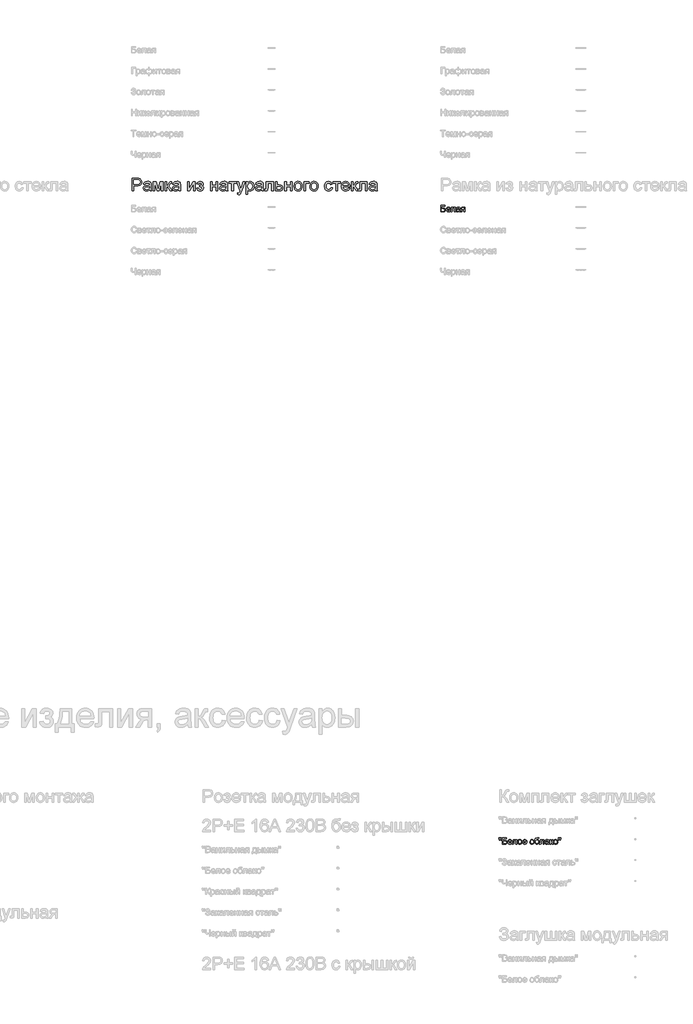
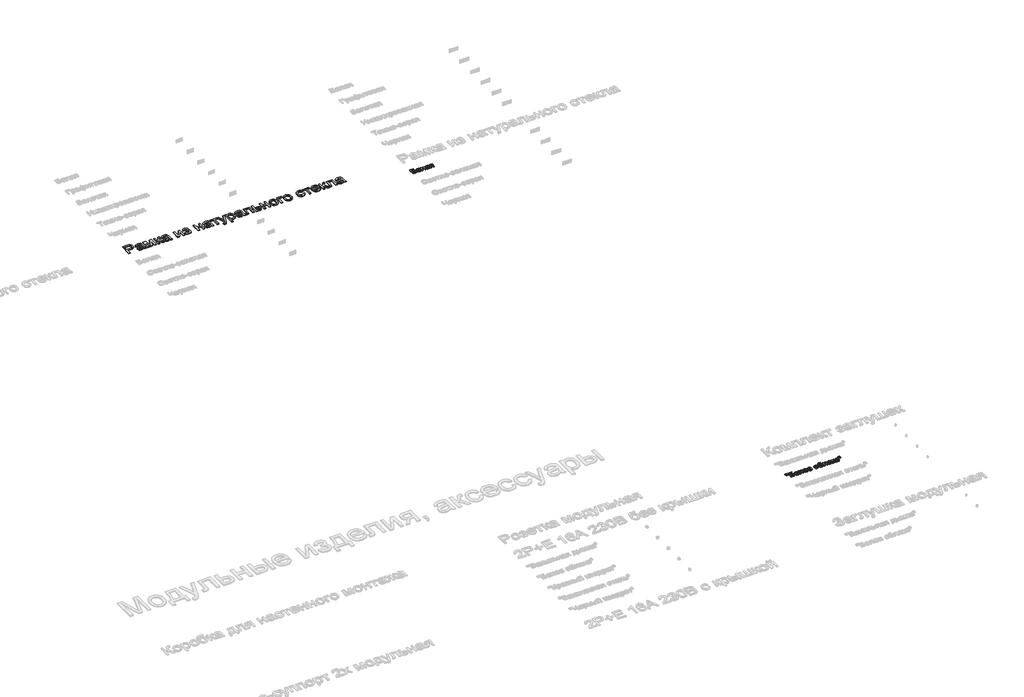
# One storey, part 104 of 168: 3 proxies.
"""IFC4 building model written with IfcOpenShell, lengths in millimetres."""

from ifc_helpers import new_model, si_unit, origin, origin_with_axes, place, context, project, spatial, polyline, outline, extrude, element, save

model = new_model("IFC4")

# Units and contexts
model_context = context("Model", 3, world=origin())
ifc_project = project(units=[si_unit("LENGTHUNIT", "METRE", prefix="MILLI")], contexts=[model_context])

# Site, building, storey
site = spatial("IfcSite", under=ifc_project)
building = spatial("IfcBuilding", under=site)
storey = spatial("IfcBuildingStorey", under=building, Name="Этаж 01", Elevation=0.0)

# Proxies
placement = place(None, origin())
element("IfcBuildingElementProxy", 1, Name="300 мм Arial 2", ObjectType="300 мм Arial 2", at=placement, inside=storey, context=model_context, shape_type="SweptSolid", body=[
    extrude(outline(polyline([(40299.0945017, -16348.4056816), (40299.0945017, -16047.0367511), (40410.7834754, -16047.0367511), (40455.8122316, -16049.9062307), (40475.8893915, -16055.2681108), (40492.4164901, -16063.9961111), (40505.7246213, -16076.4857048), (40516.1448788, -16093.1323651), (40522.8771193, -16112.7680666), (40525.1211995, -16134.224784), (40523.6059855, -16152.7246498), (40519.0603436, -16169.7437906), (40511.4842738, -16185.2822064), (40500.877776, -16199.3398971), (40486.3165468, -16210.9925593), (40466.8762826, -16219.3158895), (40442.5569835, -16224.3098875), (40413.3586494, -16225.9745536), (40336.765618, -16225.9745536), (40336.765618, -16348.4056816), (40299.0945017, -16348.4056816)]), holes=[polyline([(40336.765618, -16188.3034373), (40415.5659413, -16188.3034373), (40448.9696265, -16184.8453465), (40471.0425462, -16174.4710742), (40483.3481989, -16157.824414), (40487.4500832, -16135.5491592), (40485.0312591, -16118.6265874), (40477.7747867, -16104.352766), (40466.581977, -16093.6106117), (40452.3541408, -16087.2830414), (40414.6830245, -16084.7078674), (40336.765618, -16084.7078674), (40336.765618, -16188.3034373)])]), origin_with_axes(), (0.0, 0.0, 1.0), 20.0),
    extrude(outline(polyline([(40713.476781, -16320.1523443), (40695.4781544, -16335.584994), (40676.9460989, -16345.6833548), (40657.4575502, -16351.256767), (40636.589444, -16353.1145711), (40605.1079423, -16348.6448049), (40581.8853914, -16335.2355061), (40567.5655847, -16314.8732377), (40562.7923158, -16289.5445623), (40564.5949376, -16273.9279716), (40570.0028029, -16259.7461207), (40578.3445271, -16247.6060149), (40588.9487257, -16238.1146594), (40615.3258647, -16225.7538244), (40647.9202095, -16220.0884417), (40686.4374544, -16214.1287533), (40713.2560518, -16207.1389954), (40713.476781, -16198.7512859), (40710.883213, -16181.9390788), (40703.1025088, -16170.9394071), (40685.7016904, -16162.7724268), (40661.4582669, -16160.0501), (40639.0174652, -16161.8619189), (40623.3456922, -16167.2973753), (40612.6587202, -16177.3497509), (40605.1723216, -16193.0123268), (40567.5012053, -16188.3034373), (40574.0403078, -16167.7020455), (40583.7983777, -16151.5152378), (40597.685923, -16139.1360086), (40616.6134517, -16129.9573528), (40639.7624262, -16124.273576), (40666.3143092, -16122.3789837), (40691.7809404, -16124.0528468), (40711.9684648, -16129.074436), (40727.1895824, -16136.625214), (40737.7569927, -16145.8866432), (40744.7651447, -16157.3369703), (40749.3084874, -16171.4544419), (40751.1478973, -16204.4166687), (40751.1478973, -16251.2848348), (40753.0608837, -16316.7310418), (40760.5656764, -16348.4056816), (40722.8945601, -16348.4056816), (40713.476781, -16320.1523443)]), holes=[polyline([(40713.476781, -16244.8101117), (40652.7026754, -16256.3616064), (40620.2922716, -16262.4684475), (40605.61378, -16272.4012614), (40600.4634321, -16286.895812), (40603.2685323, -16298.0978187), (40611.683833, -16307.2764745), (40625.525393, -16313.4017097), (40644.6092715, -16315.4434548), (40664.8427813, -16313.1901776), (40682.7218462, -16306.4303459), (40697.2163968, -16296.4699409), (40707.2963635, -16284.6149436), (40711.7661297, -16272.4012614), (40713.2560518, -16255.4786896), (40713.476781, -16244.8101117)])]), origin_with_axes(), (0.0, 0.0, 1.0), 20.0),
    extrude(outline(polyline([(40802.9456823, -16127.0878733), (40867.7664898, -16127.0878733), (40917.7248647, -16304.2598421), (40971.5827888, -16127.0878733), (41033.6812696, -16127.0878733), (41033.6812696, -16348.4056816), (40996.0101533, -16348.4056816), (40996.0101533, -16170.2036431), (40941.8579236, -16348.4056816), (40892.4145835, -16348.4056816), (40840.6167986, -16161.6687808), (40840.6167986, -16348.4056816), (40802.9456823, -16348.4056816), (40802.9456823, -16127.0878733)])), origin_with_axes(), (0.0, 0.0, 1.0), 20.0),
    extrude(outline(polyline([(41090.1879441, -16127.0878733), (41127.8590604, -16127.0878733), (41127.8590604, -16221.265664), (41143.1813455, -16219.5734069), (41153.0957653, -16214.4966353), (41161.8697508, -16201.2528835), (41173.7707334, -16175.0596854), (41190.9508226, -16141.0306009), (41206.1075608, -16129.9573528), (41233.6619222, -16127.0878733), (41240.8724093, -16127.0878733), (41240.8724093, -16164.9797188), (41230.7188662, -16164.7589896), (41212.3247665, -16168.7321151), (41199.3753203, -16193.5273616), (41184.1817939, -16220.345959), (41162.8814263, -16233.4793463), (41174.8191971, -16238.7814455), (41186.6466032, -16248.1394438), (41209.9703217, -16279.0231373), (41250.2901884, -16348.4056816), (41207.4687241, -16348.4056816), (41167.9581979, -16280.4946653), (41148.0925701, -16251.7630814), (41138.8035497, -16246.5483542), (41127.8590604, -16244.8101117), (41127.8590604, -16348.4056816), (41090.1879441, -16348.4056816), (41090.1879441, -16127.0878733)])), origin_with_axes(), (0.0, 0.0, 1.0), 20.0),
    extrude(outline(polyline([(41415.1013222, -16320.1523443), (41397.1026956, -16335.584994), (41378.5706401, -16345.6833548), (41359.0820914, -16351.256767), (41338.2139852, -16353.1145711), (41306.7324835, -16348.6448049), (41283.5099326, -16335.2355061), (41269.1901259, -16314.8732377), (41264.416857, -16289.5445623), (41266.2194788, -16273.9279716), (41271.6273441, -16259.7461207), (41279.9690683, -16247.6060149), (41290.5732669, -16238.1146594), (41316.9504059, -16225.7538244), (41349.5447507, -16220.0884417), (41388.0619956, -16214.1287533), (41414.880593, -16207.1389954), (41415.1013222, -16198.7512859), (41412.5077542, -16181.9390788), (41404.72705, -16170.9394071), (41387.3262316, -16162.7724268), (41363.0828081, -16160.0501), (41340.6420064, -16161.8619189), (41324.9702334, -16167.2973753), (41314.2832614, -16177.3497509), (41306.7968628, -16193.0123268), (41269.1257465, -16188.3034373), (41275.664849, -16167.7020455), (41285.4229189, -16151.5152378), (41299.3104642, -16139.1360086), (41318.2379929, -16129.9573528), (41341.3869674, -16124.273576), (41367.9388504, -16122.3789837), (41393.4054816, -16124.0528468), (41413.593006, -16129.074436), (41428.8141236, -16136.625214), (41439.3815339, -16145.8866432), (41446.3896859, -16157.3369703), (41450.9330286, -16171.4544419), (41452.7724385, -16204.4166687), (41452.7724385, -16251.2848348), (41454.6854249, -16316.7310418), (41462.1902176, -16348.4056816), (41424.5191013, -16348.4056816), (41415.1013222, -16320.1523443)]), holes=[polyline([(41415.1013222, -16244.8101117), (41354.3272166, -16256.3616064), (41321.9168128, -16262.4684475), (41307.2383212, -16272.4012614), (41302.0879733, -16286.895812), (41304.8930735, -16298.0978187), (41313.3083742, -16307.2764745), (41327.1499342, -16313.4017097), (41346.2338127, -16315.4434548), (41366.4673225, -16313.1901776), (41384.3463874, -16306.4303459), (41398.840938, -16296.4699409), (41408.9209047, -16284.6149436), (41413.3906709, -16272.4012614), (41414.880593, -16255.4786896), (41415.1013222, -16244.8101117)])]), origin_with_axes(), (0.0, 0.0, 1.0), 20.0),
    extrude(outline(polyline([(41622.2924619, -16127.0878733), (41659.9635782, -16127.0878733), (41659.9635782, -16295.8721327), (41752.5226882, -16127.0878733), (41801.2302644, -16127.0878733), (41801.2302644, -16348.4056816), (41763.5591481, -16348.4056816), (41763.5591481, -16180.6514918), (41671.5886493, -16348.4056816), (41622.2924619, -16348.4056816), (41622.2924619, -16127.0878733)])), origin_with_axes(), (0.0, 0.0, 1.0), 20.0),
    extrude(outline(polyline([(41909.5347237, -16249.5190013), (41909.5347237, -16211.847885), (41939.259589, -16210.376357), (41954.2691744, -16202.5404705), (41959.5666751, -16195.1920276), (41961.3325087, -16186.1697217), (41958.9688668, -16175.4551586), (41951.8779414, -16167.1502225), (41941.0530137, -16161.8251307), (41927.4873651, -16160.0501), (41913.7745637, -16161.8159336), (41902.2874484, -16167.1134343), (41893.0260192, -16175.9426022), (41885.9902761, -16188.3034373), (41843.6102702, -16183.5945477), (41854.8490652, -16156.8127385), (41871.9371838, -16137.6828747), (41894.8746262, -16126.2049565), (41923.6613924, -16122.3789837), (41955.1520911, -16127.041888), (41978.9908444, -16141.0306009), (41994.0004298, -16161.4940369), (41999.003625, -16185.5811105), (41997.2239958, -16197.9419455), (41991.8851084, -16208.9784054), (41982.9869626, -16218.6904901), (41970.5295585, -16227.0781996), (41985.0700944, -16237.5444423), (41995.4351696, -16250.5490709), (42001.6431783, -16266.1288733), (42003.7125145, -16284.320638), (41998.460999, -16312.0497434), (41982.7064526, -16334.0214956), (41957.515733, -16348.3413022), (41923.955698, -16353.1145711), (41891.1314269, -16348.6999872), (41866.0142837, -16335.4562353), (41848.6042683, -16313.3833156), (41838.9013807, -16282.481228), (41881.2813865, -16277.7723385), (41887.6273509, -16293.7016289), (41898.2775347, -16305.5842173), (41911.9995331, -16312.9786454), (41927.5609415, -16315.4434548), (41942.7176797, -16313.079813), (41955.0785147, -16305.9888875), (41963.3006773, -16295.2191421), (41966.0413982, -16281.8190404), (41964.339944, -16271.2056449), (41959.2355813, -16262.0269891), (41944.7410307, -16251.4319876), (41916.8923636, -16249.2982721), (41909.5347237, -16249.5190013)])), origin_with_axes(), (0.0, 0.0, 1.0), 20.0),
    extrude(outline(polyline([(42168.5236483, -16127.0878733), (42206.1947647, -16127.0878733), (42206.1947647, -16211.847885), (42305.081445, -16211.847885), (42305.081445, -16127.0878733), (42342.7525613, -16127.0878733), (42342.7525613, -16348.4056816), (42305.081445, -16348.4056816), (42305.081445, -16249.5190013), (42206.1947647, -16249.5190013), (42206.1947647, -16348.4056816), (42168.5236483, -16348.4056816), (42168.5236483, -16127.0878733)])), origin_with_axes(), (0.0, 0.0, 1.0), 20.0),
    extrude(outline(polyline([(42540.5259219, -16320.1523443), (42522.5272953, -16335.584994), (42503.9952397, -16345.6833548), (42484.5066911, -16351.256767), (42463.6385849, -16353.1145711), (42432.1570831, -16348.6448049), (42408.9345322, -16335.2355061), (42394.6147255, -16314.8732377), (42389.8414566, -16289.5445623), (42391.6440784, -16273.9279716), (42397.0519438, -16259.7461207), (42405.393668, -16247.6060149), (42415.9978665, -16238.1146594), (42442.3750056, -16225.7538244), (42474.9693503, -16220.0884417), (42513.4865952, -16214.1287533), (42540.3051927, -16207.1389954), (42540.5259219, -16198.7512859), (42537.9323538, -16181.9390788), (42530.1516496, -16170.9394071), (42512.7508312, -16162.7724268), (42488.5074078, -16160.0501), (42466.066606, -16161.8619189), (42450.3948331, -16167.2973753), (42439.7078611, -16177.3497509), (42432.2214625, -16193.0123268), (42394.5503462, -16188.3034373), (42401.0894486, -16167.7020455), (42410.8475186, -16151.5152378), (42424.7350639, -16139.1360086), (42443.6625925, -16129.9573528), (42466.8115671, -16124.273576), (42493.3634501, -16122.3789837), (42518.8300812, -16124.0528468), (42539.0176057, -16129.074436), (42554.2387232, -16136.625214), (42564.8061336, -16145.8866432), (42571.8142856, -16157.3369703), (42576.3576282, -16171.4544419), (42578.1970382, -16204.4166687), (42578.1970382, -16251.2848348), (42580.1100246, -16316.7310418), (42587.6148173, -16348.4056816), (42549.9437009, -16348.4056816), (42540.5259219, -16320.1523443)]), holes=[polyline([(42540.5259219, -16244.8101117), (42479.7518163, -16256.3616064), (42447.3414125, -16262.4684475), (42432.6629209, -16272.4012614), (42427.512573, -16286.895812), (42430.3176732, -16298.0978187), (42438.7329738, -16307.2764745), (42452.5745339, -16313.4017097), (42471.6584124, -16315.4434548), (42491.8919221, -16313.1901776), (42509.7709871, -16306.4303459), (42524.2655377, -16296.4699409), (42534.3455044, -16284.6149436), (42538.8152706, -16272.4012614), (42540.3051927, -16255.4786896), (42540.5259219, -16244.8101117)])]), origin_with_axes(), (0.0, 0.0, 1.0), 20.0),
    extrude(outline(polyline([(42611.1592649, -16127.0878733), (42790.0970674, -16127.0878733), (42790.0970674, -16164.7589896), (42719.4637243, -16164.7589896), (42719.4637243, -16348.4056816), (42681.792608, -16348.4056816), (42681.792608, -16164.7589896), (42611.1592649, -16164.7589896), (42611.1592649, -16127.0878733)])), origin_with_axes(), (0.0, 0.0, 1.0), 20.0),
    extrude(outline(polyline([(42823.0592942, -16433.1656933), (42818.3504046, -16396.8925285), (42837.4802684, -16400.2034665), (42855.3593333, -16396.0463999), (42866.3222168, -16384.4581171), (42876.6229127, -16356.7198147), (42879.5659686, -16347.5963412), (42799.5148465, -16127.0878733), (42839.246102, -16127.0878733), (42881.6996842, -16249.9604597), (42896.4885404, -16299.1094942), (42911.2773966, -16255.6994188), (42954.9082012, -16127.0878733), (42994.3451511, -16127.0878733), (42917.3106613, -16353.7031823), (42897.2978808, -16402.8522169), (42887.0523672, -16418.5423839), (42875.4456903, -16429.4132969), (42861.9628152, -16435.7592613), (42846.0887071, -16437.8745828), (42823.0592942, -16433.1656933)])), origin_with_axes(), (0.0, 0.0, 1.0), 20.0),
    extrude(outline(polyline([(43025.5415443, -16433.1656933), (43025.5415443, -16127.0878733), (43063.2126606, -16127.0878733), (43063.2126606, -16164.0232256), (43075.4999193, -16145.8038698), (43089.2587059, -16132.7900442), (43105.2983609, -16124.9817488), (43124.4282246, -16122.3789837), (43149.9040528, -16126.0210155), (43172.1793076, -16136.9471107), (43190.31589, -16154.4950819), (43203.3757008, -16178.0027414), (43211.2667696, -16205.7594379), (43213.8971258, -16236.0545202), (43210.9264787, -16268.271786), (43202.0145374, -16297.0861432), (43187.4464104, -16321.0352611), (43167.5072063, -16338.6568087), (43144.2846553, -16349.5001305), (43119.8664879, -16353.1145711), (43102.548443, -16350.695747), (43087.0882021, -16343.4392746), (43073.8536473, -16332.4855882), (43063.2126606, -16318.975122), (43063.2126606, -16433.1656933), (43025.5415443, -16433.1656933)]), holes=[polyline([(43063.2126606, -16239.512611), (43067.2869537, -16273.2841782), (43079.509833, -16296.9022022), (43097.5452478, -16310.8081417), (43119.0571475, -16315.4434548), (43140.918535, -16310.6425948), (43159.4138024, -16296.2400147), (43172.0229577, -16271.7574679), (43176.2260095, -16236.7167078), (43172.1241253, -16203.1290817), (43159.8184726, -16179.1799638), (43141.8106489, -16164.832566), (43120.6022519, -16160.0501), (43099.3110814, -16165.1360686), (43080.613479, -16180.3939744), (43067.5628652, -16205.3455707), (43063.2126606, -16239.512611)])]), origin_with_axes(), (0.0, 0.0, 1.0), 20.0),
    extrude(outline(polyline([(43397.5438178, -16320.1523443), (43379.5451912, -16335.584994), (43361.0131357, -16345.6833548), (43341.524587, -16351.256767), (43320.6564808, -16353.1145711), (43289.1749791, -16348.6448049), (43265.9524282, -16335.2355061), (43251.6326215, -16314.8732377), (43246.8593526, -16289.5445623), (43248.6619744, -16273.9279716), (43254.0698397, -16259.7461207), (43262.411564, -16247.6060149), (43273.0157625, -16238.1146594), (43299.3929015, -16225.7538244), (43331.9872463, -16220.0884417), (43370.5044912, -16214.1287533), (43397.3230886, -16207.1389954), (43397.5438178, -16198.7512859), (43394.9502498, -16181.9390788), (43387.1695456, -16170.9394071), (43369.7687272, -16162.7724268), (43345.5253037, -16160.0501), (43323.084502, -16161.8619189), (43307.412729, -16167.2973753), (43296.7257571, -16177.3497509), (43289.2393585, -16193.0123268), (43251.5682421, -16188.3034373), (43258.1073446, -16167.7020455), (43267.8654145, -16151.5152378), (43281.7529599, -16139.1360086), (43300.6804885, -16129.9573528), (43323.8294631, -16124.273576), (43350.3813461, -16122.3789837), (43375.8479772, -16124.0528468), (43396.0355017, -16129.074436), (43411.2566192, -16136.625214), (43421.8240295, -16145.8866432), (43428.8321815, -16157.3369703), (43433.3755242, -16171.4544419), (43435.2149341, -16204.4166687), (43435.2149341, -16251.2848348), (43437.1279205, -16316.7310418), (43444.6327132, -16348.4056816), (43406.9615969, -16348.4056816), (43397.5438178, -16320.1523443)]), holes=[polyline([(43397.5438178, -16244.8101117), (43336.7697122, -16256.3616064), (43304.3593085, -16262.4684475), (43289.6808168, -16272.4012614), (43284.5304689, -16286.895812), (43287.3355691, -16298.0978187), (43295.7508698, -16307.2764745), (43309.5924298, -16313.4017097), (43328.6763083, -16315.4434548), (43348.9098181, -16313.1901776), (43366.788883, -16306.4303459), (43381.2834336, -16296.4699409), (43391.3634003, -16284.6149436), (43395.8331666, -16272.4012614), (43397.3230886, -16255.4786896), (43397.5438178, -16244.8101117)])]), origin_with_axes(), (0.0, 0.0, 1.0), 20.0),
    extrude(outline(polyline([(43505.8482772, -16127.0878733), (43675.3683006, -16127.0878733), (43675.3683006, -16348.1849524), (43637.6971843, -16348.1849524), (43637.6971843, -16164.7589896), (43543.5193935, -16164.7589896), (43543.5193935, -16270.3411222), (43540.9810078, -16319.0486984), (43536.226133, -16330.0759612), (43527.0382801, -16339.6133019), (43513.0955525, -16346.2075866), (43494.0760534, -16348.4056816), (43463.4682714, -16346.4926952), (43463.4682714, -16310.7345653), (43480.3172667, -16310.7345653), (43497.3502031, -16308.4169087), (43504.15602, -16301.0592688), (43505.8482772, -16268.2074066), (43505.8482772, -16127.0878733)])), origin_with_axes(), (0.0, 0.0, 1.0), 20.0),
    extrude(outline(polyline([(43731.8749751, -16127.0878733), (43769.5460914, -16127.0878733), (43769.5460914, -16207.1389954), (43812.9561668, -16207.1389954), (43850.5904949, -16211.857082), (43865.738036, -16217.7546902), (43878.4391619, -16226.0113418), (43888.4823404, -16236.3419281), (43895.6560393, -16248.4613405), (43901.3949984, -16278.0666441), (43896.5113649, -16305.0231973), (43881.8604645, -16327.7675016), (43870.6285673, -16336.7967054), (43856.4674098, -16343.2461366), (43819.3573135, -16348.4056816), (43731.8749751, -16348.4056816), (43731.8749751, -16127.0878733)]), holes=[polyline([(43769.5460914, -16310.7345653), (43804.7156101, -16310.7345653), (43832.0032571, -16308.7571995), (43850.1490365, -16302.8251024), (43860.3301707, -16292.6991504), (43863.7238821, -16278.1402205), (43861.2130875, -16265.8345678), (43853.6807037, -16254.9636548), (43837.5398811, -16247.3484975), (43809.2037704, -16244.8101117), (43769.5460914, -16244.8101117), (43769.5460914, -16310.7345653)])]), origin_with_axes(), (0.0, 0.0, 1.0), 20.0),
    extrude(outline(polyline([(43948.4838938, -16127.0878733), (43986.1550101, -16127.0878733), (43986.1550101, -16211.847885), (44085.0416904, -16211.847885), (44085.0416904, -16127.0878733), (44122.7128067, -16127.0878733), (44122.7128067, -16348.4056816), (44085.0416904, -16348.4056816), (44085.0416904, -16249.5190013), (43986.1550101, -16249.5190013), (43986.1550101, -16348.4056816), (43948.4838938, -16348.4056816), (43948.4838938, -16127.0878733)])), origin_with_axes(), (0.0, 0.0, 1.0), 20.0),
    extrude(outline(polyline([(44169.8017021, -16237.7467774), (44171.8388487, -16209.0841715), (44177.9502883, -16184.385494), (44188.136021, -16163.6507451), (44202.3960469, -16146.8799246), (44216.7526417, -16136.160763), (44232.5991587, -16128.504219), (44249.9355977, -16123.9102925), (44268.7619588, -16122.3789837), (44289.5449923, -16124.2436856), (44308.3368644, -16129.8377912), (44325.1375753, -16139.1613005), (44339.9471249, -16152.2142135), (44352.0343477, -16168.5550719), (44360.6680783, -16187.7424172), (44365.8483166, -16209.7762495), (44367.5750627, -16234.6565687), (44364.5216422, -16272.7139611), (44355.3613805, -16301.6846682), (44340.3609921, -16323.3805088), (44319.7871915, -16339.6133019), (44295.35063, -16349.7392538), (44268.7619588, -16353.1145711), (44247.6754227, -16351.256767), (44228.7088066, -16345.6833548), (44211.8621105, -16336.3943344), (44197.1353344, -16323.3897059), (44185.1768702, -16306.8901984), (44176.6351102, -16287.1165412), (44171.5100541, -16264.0687342), (44169.8017021, -16237.7467774)]), holes=[polyline([(44207.4728184, -16237.673201), (44211.8322201, -16271.7666649), (44224.910425, -16296.0560737), (44244.5921117, -16310.5966095), (44268.7619588, -16315.4434548), (44292.8214413, -16310.5690184), (44312.4663398, -16295.9457091), (44325.5445448, -16271.3344036), (44329.9039464, -16236.4959786), (44325.5169536, -16203.3957961), (44312.3559752, -16179.4374812), (44292.6834855, -16164.8969453), (44268.7619588, -16160.0501), (44244.5921117, -16164.8785512), (44224.910425, -16179.3639048), (44211.8322201, -16203.5981312), (44207.4728184, -16237.673201)])]), origin_with_axes(), (0.0, 0.0, 1.0), 20.0),
    extrude(outline(polyline([(44409.9550686, -16127.0878733), (44532.3861966, -16127.0878733), (44532.3861966, -16164.7589896), (44447.6261849, -16164.7589896), (44447.6261849, -16348.4056816), (44409.9550686, -16348.4056816), (44409.9550686, -16127.0878733)])), origin_with_axes(), (0.0, 0.0, 1.0), 20.0),
    extrude(outline(polyline([(44551.2217547, -16237.7467774), (44553.2589013, -16209.0841715), (44559.3703409, -16184.385494), (44569.5560736, -16163.6507451), (44583.8160995, -16146.8799246), (44598.1726943, -16136.160763), (44614.0192113, -16128.504219), (44631.3556503, -16123.9102925), (44650.1820114, -16122.3789837), (44670.9650449, -16124.2436856), (44689.756917, -16129.8377912), (44706.5576279, -16139.1613005), (44721.3671775, -16152.2142135), (44733.4544003, -16168.5550719), (44742.0881309, -16187.7424172), (44747.2683692, -16209.7762495), (44748.9951153, -16234.6565687), (44745.9416948, -16272.7139611), (44736.7814331, -16301.6846682), (44721.7810447, -16323.3805088), (44701.2072441, -16339.6133019), (44676.7706826, -16349.7392538), (44650.1820114, -16353.1145711), (44629.0954753, -16351.256767), (44610.1288592, -16345.6833548), (44593.2821631, -16336.3943344), (44578.555387, -16323.3897059), (44566.5969228, -16306.8901984), (44558.0551628, -16287.1165412), (44552.9301067, -16264.0687342), (44551.2217547, -16237.7467774)]), holes=[polyline([(44588.892871, -16237.673201), (44593.2522727, -16271.7666649), (44606.3304776, -16296.0560737), (44626.0121643, -16310.5966095), (44650.1820114, -16315.4434548), (44674.2414939, -16310.5690184), (44693.8863924, -16295.9457091), (44706.9645974, -16271.3344036), (44711.323999, -16236.4959786), (44706.9370062, -16203.3957961), (44693.7760278, -16179.4374812), (44674.1035381, -16164.8969453), (44650.1820114, -16160.0501), (44626.0121643, -16164.8785512), (44606.3304776, -16179.3639048), (44593.2522727, -16203.5981312), (44588.892871, -16237.673201)])]), origin_with_axes(), (0.0, 0.0, 1.0), 20.0),
    extrude(outline(polyline([(45050.3640458, -16268.3545594), (45088.0351621, -16273.063449), (45077.5321311, -16306.5683017), (45057.7952621, -16331.88778), (45030.682359, -16347.8078733), (44998.0512261, -16353.1145711), (44976.9233032, -16351.2636648), (44957.9796797, -16345.710946), (44941.2203556, -16336.4564145), (44926.6453308, -16323.5000705), (44914.8478151, -16307.0856357), (44906.4210181, -16287.456832), (44901.3649399, -16264.6136594), (44899.6795805, -16238.5561178), (44902.5582572, -16205.032871), (44911.194287, -16175.9793904), (44925.7256258, -16152.5177162), (44946.2902293, -16135.7698884), (44970.8923378, -16125.7267099), (44997.5361913, -16122.3789837), (45029.3671809, -16126.9775087), (45054.8154179, -16140.7730835), (45073.0715619, -16163.0299442), (45083.3262725, -16193.0123268), (45045.6551562, -16197.7212163), (45038.8217482, -16181.2860882), (45028.1807615, -16169.5046673), (45014.3208073, -16162.4137419), (44997.8304969, -16160.0501), (44973.4859058, -16164.7038073), (44954.162904, -16178.664929), (44941.5537486, -16202.6876233), (44937.3506968, -16237.5260482), (44941.4617781, -16272.8335227), (44953.795022, -16296.9389904), (44972.7685359, -16310.8173387), (44996.8004273, -16315.4434548), (45016.3073701, -16312.5555811), (45032.3010398, -16303.8919602), (45043.9353079, -16289.2318626), (45050.3640458, -16268.3545594)])), origin_with_axes(), (0.0, 0.0, 1.0), 20.0),
    extrude(outline(polyline([(45102.1618307, -16127.0878733), (45281.0996331, -16127.0878733), (45281.0996331, -16164.7589896), (45210.4662901, -16164.7589896), (45210.4662901, -16348.4056816), (45172.7951738, -16348.4056816), (45172.7951738, -16164.7589896), (45102.1618307, -16164.7589896), (45102.1618307, -16127.0878733)])), origin_with_axes(), (0.0, 0.0, 1.0), 20.0),
    extrude(outline(polyline([(45469.0137563, -16282.481228), (45505.9491086, -16287.1901176), (45492.6409774, -16315.0203905), (45471.4049892, -16335.8241173), (45442.7193907, -16348.7919577), (45407.0624283, -16353.1145711), (45383.688126, -16351.2498692), (45362.8614066, -16345.6557637), (45344.5822699, -16336.3322543), (45328.8507161, -16323.2793413), (45316.200174, -16306.860308), (45307.1640725, -16287.4384379), (45301.7424116, -16265.013731), (45299.9351913, -16239.5861874), (45301.7608057, -16213.2964203), (45307.2376489, -16190.1244531), (45316.3657209, -16170.0702859), (45329.1450217, -16153.1339185), (45344.8351888, -16139.6786346), (45362.6958597, -16130.0677174), (45382.7270343, -16124.3011672), (45404.9287127, -16122.3789837), (45426.4153205, -16124.2965686), (45445.8463876, -16130.0493233), (45463.2219141, -16139.6372478), (45478.5419, -16153.0603421), (45491.0475885, -16169.9599213), (45499.9802232, -16189.9773003), (45505.339804, -16213.1124793), (45507.126331, -16239.3654582), (45506.9056018, -16249.5190013), (45337.6063076, -16249.5190013), (45344.127016, -16277.7171562), (45359.2745571, -16298.4473066), (45381.1359447, -16311.1944178), (45407.7981923, -16315.4434548), (45427.847761, -16313.4752861), (45444.7335446, -16307.5707801), (45458.455543, -16297.3620547), (45469.0137563, -16282.481228)]), holes=[polyline([(45337.6063076, -16211.847885), (45469.4552147, -16211.847885), (45464.360049, -16191.945469), (45454.3720529, -16177.7084358), (45432.4094978, -16164.464684), (45404.7815599, -16160.0501), (45379.3885052, -16163.5725701), (45358.3916403, -16174.1399805), (45343.7959222, -16190.6118968), (45337.6063076, -16211.847885)])]), origin_with_axes(), (0.0, 0.0, 1.0), 20.0),
    extrude(outline(polyline([(45747.2796974, -16127.0878733), (45916.7997208, -16127.0878733), (45916.7997208, -16348.1849524), (45879.1286045, -16348.1849524), (45879.1286045, -16164.7589896), (45784.9508137, -16164.7589896), (45784.9508137, -16270.3411222), (45782.412428, -16319.0486984), (45777.6575532, -16330.0759612), (45768.4697004, -16339.6133019), (45754.5269727, -16346.2075866), (45735.5074736, -16348.4056816), (45704.8996916, -16346.4926952), (45704.8996916, -16310.7345653), (45721.748687, -16310.7345653), (45738.7816233, -16308.4169087), (45745.5874403, -16301.0592688), (45747.2796974, -16268.2074066), (45747.2796974, -16127.0878733)])), origin_with_axes(), (0.0, 0.0, 1.0), 20.0),
    extrude(outline(polyline([(45544.7974473, -16127.0878733), (45582.4685636, -16127.0878733), (45582.4685636, -16221.265664), (45597.7908487, -16219.5734069), (45607.7052685, -16214.4966353), (45616.479254, -16201.2528835), (45628.3802366, -16175.0596854), (45645.5603258, -16141.0306009), (45660.717064, -16129.9573528), (45688.2714254, -16127.0878733), (45695.4819125, -16127.0878733), (45695.4819125, -16164.9797188), (45685.3283694, -16164.7589896), (45666.9342697, -16168.7321151), (45653.9848235, -16193.5273616), (45638.7912971, -16220.345959), (45617.4909295, -16233.4793463), (45629.4287003, -16238.7814455), (45641.2561064, -16248.1394438), (45664.5798249, -16279.0231373), (45704.8996916, -16348.4056816), (45662.0782273, -16348.4056816), (45622.5677011, -16280.4946653), (45602.7020733, -16251.7630814), (45593.4130529, -16246.5483542), (45582.4685636, -16244.8101117), (45582.4685636, -16348.4056816), (45544.7974473, -16348.4056816), (45544.7974473, -16127.0878733)])), origin_with_axes(), (0.0, 0.0, 1.0), 20.0),
    extrude(outline(polyline([(46114.5730814, -16320.1523443), (46096.5744548, -16335.584994), (46078.0423993, -16345.6833548), (46058.5538506, -16351.256767), (46037.6857444, -16353.1145711), (46006.2042427, -16348.6448049), (45982.9816917, -16335.2355061), (45968.6618851, -16314.8732377), (45963.8886162, -16289.5445623), (45965.691238, -16273.9279716), (45971.0991033, -16259.7461207), (45979.4408275, -16247.6060149), (45990.045026, -16238.1146594), (46016.4221651, -16225.7538244), (46049.0165099, -16220.0884417), (46087.5337548, -16214.1287533), (46114.3523522, -16207.1389954), (46114.5730814, -16198.7512859), (46111.9795133, -16181.9390788), (46104.1988091, -16170.9394071), (46086.7979908, -16162.7724268), (46062.5545673, -16160.0501), (46040.1137656, -16161.8619189), (46024.4419926, -16167.2973753), (46013.7550206, -16177.3497509), (46006.268622, -16193.0123268), (45968.5975057, -16188.3034373), (45975.1366082, -16167.7020455), (45984.8946781, -16151.5152378), (45998.7822234, -16139.1360086), (46017.7097521, -16129.9573528), (46040.8587266, -16124.273576), (46067.4106096, -16122.3789837), (46092.8772407, -16124.0528468), (46113.0647652, -16129.074436), (46128.2858828, -16136.625214), (46138.8532931, -16145.8866432), (46145.8614451, -16157.3369703), (46150.4047877, -16171.4544419), (46152.2441977, -16204.4166687), (46152.2441977, -16251.2848348), (46154.1571841, -16316.7310418), (46161.6619768, -16348.4056816), (46123.9908605, -16348.4056816), (46114.5730814, -16320.1523443)]), holes=[polyline([(46114.5730814, -16244.8101117), (46053.7989758, -16256.3616064), (46021.388572, -16262.4684475), (46006.7100804, -16272.4012614), (46001.5597325, -16286.895812), (46004.3648327, -16298.0978187), (46012.7801333, -16307.2764745), (46026.6216934, -16313.4017097), (46045.7055719, -16315.4434548), (46065.9390817, -16313.1901776), (46083.8181466, -16306.4303459), (46098.3126972, -16296.4699409), (46108.3926639, -16284.6149436), (46112.8624301, -16272.4012614), (46114.3523522, -16255.4786896), (46114.5730814, -16244.8101117)])]), origin_with_axes(), (0.0, 0.0, 1.0), 20.0),
])
element("IfcBuildingElementProxy", 2, Name="150", ObjectType="150", at=placement, inside=storey, context=model_context, shape_type="SweptSolid", body=[
    extrude(outline(polyline([(47682.6133883, -16697.7212163), (47776.791179, -16697.7212163), (47776.791179, -16716.5567745), (47701.4489464, -16716.5567745), (47701.4489464, -16761.2912251), (47736.7288298, -16761.2912251), (47767.8148584, -16765.1171979), (47778.2167218, -16770.6446248), (47786.3193227, -16779.5749603), (47791.53405, -16791.0712726), (47793.2722924, -16804.2966303), (47788.3242796, -16825.7625448), (47773.5538175, -16842.0781113), (47760.2824745, -16846.823789), (47740.1133441, -16848.4056816), (47682.6133883, -16848.4056816), (47682.6133883, -16697.7212163)]), holes=[polyline([(47701.4489464, -16829.5701234), (47741.8056013, -16829.5701234), (47756.0702257, -16828.015822), (47766.269754, -16823.3529177), (47772.3949892, -16815.5814105), (47774.4367343, -16804.7013005), (47769.7646329, -16789.9492325), (47756.7600044, -16782.0765578), (47728.3779085, -16780.1267833), (47701.4489464, -16780.1267833), (47701.4489464, -16829.5701234)])]), origin_with_axes(), (0.0, 0.0, 1.0), 20.0),
    extrude(outline(polyline([(47894.2926883, -16815.4434548), (47912.7603645, -16817.7978996), (47906.1062989, -16831.713036), (47895.4883048, -16842.1148995), (47881.1455055, -16848.5988196), (47863.3170243, -16850.7601263), (47841.2165134, -16847.0307226), (47824.2111682, -16835.8425114), (47813.3678464, -16817.9220597), (47809.7534058, -16793.9959345), (47813.4046346, -16769.2650674), (47824.358321, -16750.7698), (47841.13374, -16739.2366995), (47862.2501665, -16735.3923327), (47882.709004, -16739.2275025), (47899.0567601, -16750.7330118), (47909.7759218, -16769.191491), (47913.3489756, -16793.8855699), (47913.2386111, -16798.9623414), (47828.588964, -16798.9623414), (47831.8493181, -16813.0614189), (47839.4230887, -16823.4264941), (47850.3537825, -16829.8000497), (47863.6849063, -16831.9245682), (47882.1525825, -16827.9882308), (47894.2926883, -16815.4434548)]), holes=[polyline([(47828.588964, -16780.1267833), (47894.5134175, -16780.1267833), (47891.9658347, -16770.1755753), (47886.9718366, -16763.0570587), (47875.990559, -16756.4351828), (47862.1765901, -16754.2278908), (47849.4800628, -16755.9891259), (47838.9816303, -16761.272831), (47831.6837712, -16769.5087892), (47828.588964, -16780.1267833)])]), origin_with_axes(), (0.0, 0.0, 1.0), 20.0),
    extrude(outline(polyline([(47941.6023129, -16737.7467774), (48026.3623246, -16737.7467774), (48026.3623246, -16848.295317), (48007.5267664, -16848.295317), (48007.5267664, -16756.5823356), (47960.437871, -16756.5823356), (47960.437871, -16809.3734019), (47959.1686781, -16833.72719), (47952.1973143, -16844.0094917), (47935.716201, -16848.4056816), (47920.41231, -16847.4491884), (47920.41231, -16829.5701234), (47928.8368076, -16829.5701234), (47937.3532758, -16828.4112951), (47940.7561843, -16824.7324752), (47941.6023129, -16808.3065441), (47941.6023129, -16737.7467774)])), origin_with_axes(), (0.0, 0.0, 1.0), 20.0),
    extrude(outline(polyline([(48125.2490049, -16834.279013), (48106.9836638, -16847.0445182), (48086.8053364, -16850.7601263), (48071.0645855, -16848.5252432), (48059.45331, -16841.8205939), (48052.2934067, -16831.6394596), (48049.9067723, -16818.975122), (48053.5120158, -16804.0759012), (48062.9849772, -16793.2601705), (48076.1735467, -16787.079753), (48092.4707191, -16784.2470616), (48125.1386403, -16777.7723385), (48125.2490049, -16773.5784838), (48123.9522208, -16765.1723802), (48120.0618687, -16759.6725443), (48111.3614596, -16755.5890542), (48099.2397478, -16754.2278908), (48080.1834605, -16757.8515285), (48071.0967752, -16770.7090042), (48052.261217, -16768.3545594), (48060.4098032, -16749.9604597), (48076.8173402, -16739.1815172), (48101.667769, -16735.3923327), (48124.4948468, -16738.7400588), (48137.3891107, -16747.1461624), (48143.164858, -16759.9300617), (48144.084563, -16776.4111751), (48144.084563, -16799.8452582), (48145.0410562, -16832.5683617), (48148.7934526, -16848.4056816), (48129.9578944, -16848.4056816), (48125.2490049, -16834.279013)]), holes=[polyline([(48125.2490049, -16796.6078966), (48094.8619521, -16802.383644), (48078.6567502, -16805.4370645), (48071.3175044, -16810.4034715), (48068.7423304, -16817.6507468), (48074.3525308, -16827.841078), (48090.8152501, -16831.9245682), (48109.8715375, -16827.4180137), (48122.1587961, -16816.5103126), (48125.1386403, -16801.9421856), (48125.2490049, -16796.6078966)])]), origin_with_axes(), (0.0, 0.0, 1.0), 20.0),
    extrude(outline(polyline([(48254.7434672, -16737.7467774), (48254.7434672, -16848.4056816), (48235.907909, -16848.4056816), (48235.907909, -16806.0256757), (48225.6440014, -16806.0256757), (48211.6644855, -16808.4169087), (48198.5310983, -16824.4933519), (48183.5215129, -16848.4056816), (48161.7428988, -16848.4056816), (48180.6520333, -16818.1657816), (48189.0029546, -16807.3132627), (48196.6916883, -16802.4940086), (48183.8158185, -16798.5484742), (48174.7659214, -16791.0528785), (48169.4132384, -16781.0832765), (48167.6290107, -16769.7157228), (48170.0662289, -16756.8214589), (48177.3778836, -16746.6127335), (48189.3064573, -16739.9632664), (48205.5944326, -16737.7467774), (48254.7434672, -16737.7467774)]), holes=[polyline([(48235.907909, -16756.5823356), (48211.0758743, -16756.5823356), (48198.2505883, -16757.672186), (48190.9711233, -16760.9417372), (48186.4645689, -16771.1504626), (48188.1246364, -16778.32876), (48193.1048389, -16783.3089625), (48216.6308925, -16787.1901176), (48235.907909, -16787.1901176), (48235.907909, -16756.5823356)])]), origin_with_axes(), (0.0, 0.0, 1.0), 20.0),
])
element("IfcBuildingElementProxy", 3, Name="150", ObjectType="150", at=placement, inside=storey, context=model_context, shape_type="SweptSolid", body=[
    extrude(outline(polyline([(49080.1485789, -31870.3300622), (49075.550054, -31841.2305964), (49075.550054, -31816.1778325), (49094.3856121, -31816.1778325), (49094.3856121, -31841.2305964), (49090.2653338, -31870.3300622), (49080.1485789, -31870.3300622)])), origin_with_axes(), (0.0, 0.0, 1.0), 20.0),
    extrude(outline(polyline([(49117.7093306, -31870.3300622), (49113.2211703, -31841.2305964), (49113.2211703, -31816.1778325), (49132.0567284, -31816.1778325), (49132.0567284, -31841.2305964), (49127.6421445, -31870.3300622), (49117.7093306, -31870.3300622)])), origin_with_axes(), (0.0, 0.0, 1.0), 20.0),
    extrude(outline(polyline([(49157.9556209, -31816.1778325), (49252.1334117, -31816.1778325), (49252.1334117, -31835.0133907), (49176.791179, -31835.0133907), (49176.791179, -31879.7478413), (49212.0710624, -31879.7478413), (49243.157091, -31883.573814), (49253.5589544, -31889.101241), (49261.6615553, -31898.0315764), (49266.8762826, -31909.5278888), (49268.614525, -31922.7532465), (49263.6665122, -31944.2191609), (49248.8960501, -31960.5347274), (49235.6247071, -31965.2804052), (49215.4555767, -31966.8622977), (49157.9556209, -31966.8622977), (49157.9556209, -31816.1778325)]), holes=[polyline([(49176.791179, -31948.0267396), (49217.1478339, -31948.0267396), (49231.4124583, -31946.4724382), (49241.6119866, -31941.8095339), (49247.7372218, -31934.0380267), (49249.7789669, -31923.1579167), (49245.1068655, -31908.4058487), (49232.102237, -31900.533174), (49203.7201411, -31898.5833994), (49176.791179, -31898.5833994), (49176.791179, -31948.0267396)])]), origin_with_axes(), (0.0, 0.0, 1.0), 20.0),
    extrude(outline(polyline([(49369.6349209, -31933.900071), (49388.1025971, -31936.2545157), (49381.4485315, -31950.1696522), (49370.8305374, -31960.5715156), (49356.4877381, -31967.0554358), (49338.6592569, -31969.2167425), (49316.5587461, -31965.4873388), (49299.5534008, -31954.2991276), (49288.710079, -31936.3786759), (49285.0956384, -31912.4525506), (49288.7468672, -31887.7216835), (49299.7005536, -31869.2264162), (49316.4759726, -31857.6933157), (49337.5923991, -31853.8489488), (49358.0512366, -31857.6841186), (49374.3989927, -31869.189628), (49385.1181544, -31887.6481071), (49388.6912083, -31912.342186), (49388.5808437, -31917.4189576), (49303.9311966, -31917.4189576), (49307.1915508, -31931.518035), (49314.7653213, -31941.8831103), (49325.6960151, -31948.2566658), (49339.0271389, -31950.3811843), (49357.4948151, -31946.444847), (49369.6349209, -31933.900071)]), holes=[polyline([(49303.9311966, -31898.5833994), (49369.8556501, -31898.5833994), (49367.3080673, -31888.6321915), (49362.3140692, -31881.5136749), (49351.3327917, -31874.8917989), (49337.5188227, -31872.684507), (49324.8222954, -31874.445742), (49314.3238629, -31879.7294472), (49307.0260039, -31887.9654053), (49303.9311966, -31898.5833994)])]), origin_with_axes(), (0.0, 0.0, 1.0), 20.0),
    extrude(outline(polyline([(49416.9445455, -31856.2033936), (49501.7045572, -31856.2033936), (49501.7045572, -31966.7519331), (49482.868999, -31966.7519331), (49482.868999, -31875.0389517), (49435.7801036, -31875.0389517), (49435.7801036, -31927.830018), (49434.5109108, -31952.1838061), (49427.539547, -31962.4661079), (49411.0584336, -31966.8622977), (49395.7545426, -31965.9058045), (49395.7545426, -31948.0267396), (49404.1790403, -31948.0267396), (49412.6955084, -31946.8679113), (49416.0984169, -31943.1890913), (49416.9445455, -31926.7631603), (49416.9445455, -31856.2033936)])), origin_with_axes(), (0.0, 0.0, 1.0), 20.0),
    extrude(outline(polyline([(49525.2490049, -31911.5328457), (49529.323298, -31884.852204), (49541.5461773, -31866.0994193), (49556.6477332, -31856.9115664), (49574.7291332, -31853.8489488), (49594.516586, -31857.5783525), (49610.3217163, -31868.7665637), (49620.6821929, -31886.5306656), (49624.1356852, -31909.9877413), (49622.6089749, -31929.0164375), (49618.0288441, -31943.501791), (49610.5286499, -31954.3497114), (49600.2417496, -31962.4661079), (49588.0234688, -31967.5290839), (49574.7291332, -31969.2167425), (49554.7025571, -31965.5011344), (49538.915821, -31954.3543099), (49528.6657089, -31936.2177275), (49525.2490049, -31911.5328457)]), holes=[polyline([(49544.084563, -31911.4960575), (49546.2642638, -31928.5427894), (49552.8033663, -31940.6874938), (49562.6442097, -31947.9577617), (49574.7291332, -31950.3811843), (49586.7588745, -31947.9439661), (49596.5813237, -31940.6323115), (49603.1204262, -31928.3266587), (49605.300127, -31910.9074463), (49603.1066306, -31894.357355), (49596.5261414, -31882.3781975), (49586.6898966, -31875.1079296), (49574.7291332, -31872.684507), (49562.6442097, -31875.0987326), (49552.8033663, -31882.3414093), (49546.2642638, -31894.4585226), (49544.084563, -31911.4960575)])]), origin_with_axes(), (0.0, 0.0, 1.0), 20.0),
    extrude(outline(polyline([(49722.8016363, -31933.900071), (49741.2693124, -31936.2545157), (49734.6152469, -31950.1696522), (49723.9972528, -31960.5715156), (49709.6544535, -31967.0554358), (49691.8259723, -31969.2167425), (49669.7254614, -31965.4873388), (49652.7201162, -31954.2991276), (49641.8767944, -31936.3786759), (49638.2623538, -31912.4525506), (49641.9135826, -31887.7216835), (49652.867269, -31869.2264162), (49669.642688, -31857.6933157), (49690.7591145, -31853.8489488), (49711.217952, -31857.6841186), (49727.5657081, -31869.189628), (49738.2848698, -31887.6481071), (49741.8579236, -31912.342186), (49741.747559, -31917.4189576), (49657.0979119, -31917.4189576), (49660.3582661, -31931.518035), (49667.9320367, -31941.8831103), (49678.8627305, -31948.2566658), (49692.1938543, -31950.3811843), (49710.6615304, -31946.444847), (49722.8016363, -31933.900071)]), holes=[polyline([(49657.0979119, -31898.5833994), (49723.0223655, -31898.5833994), (49720.4747827, -31888.6321915), (49715.4807846, -31881.5136749), (49704.499507, -31874.8917989), (49690.6855381, -31872.684507), (49677.9890107, -31874.445742), (49667.4905783, -31879.7294472), (49660.1927192, -31887.9654053), (49657.0979119, -31898.5833994)])]), origin_with_axes(), (0.0, 0.0, 1.0), 20.0),
    extrude(outline(polyline([(49814.8457115, -31911.5328457), (49818.9200046, -31884.852204), (49831.1428839, -31866.0994193), (49846.2444398, -31856.9115664), (49864.3258398, -31853.8489488), (49884.1132926, -31857.5783525), (49899.9184229, -31868.7665637), (49910.2788995, -31886.5306656), (49913.7323918, -31909.9877413), (49912.2056815, -31929.0164375), (49907.6255507, -31943.501791), (49900.1253565, -31954.3497114), (49889.8384562, -31962.4661079), (49877.6201754, -31967.5290839), (49864.3258398, -31969.2167425), (49844.2992637, -31965.5011344), (49828.5125276, -31954.3543099), (49818.2624155, -31936.2177275), (49814.8457115, -31911.5328457)]), holes=[polyline([(49833.6812696, -31911.4960575), (49835.8609704, -31928.5427894), (49842.4000729, -31940.6874938), (49852.2409163, -31947.9577617), (49864.3258398, -31950.3811843), (49876.3555811, -31947.9439661), (49886.1780303, -31940.6323115), (49892.7171328, -31928.3266587), (49894.8968336, -31910.9074463), (49892.7033372, -31894.357355), (49886.122848, -31882.3781975), (49876.2866032, -31875.1079296), (49864.3258398, -31872.684507), (49852.2409163, -31875.0987326), (49842.4000729, -31882.3414093), (49835.8609704, -31894.4585226), (49833.6812696, -31911.4960575)])]), origin_with_axes(), (0.0, 0.0, 1.0), 20.0),
    extrude(outline(polyline([(50012.6190721, -31813.8233877), (50029.1001855, -31813.8233877), (50024.2441431, -31828.5202734), (50014.6424231, -31833.8361683), (49991.576222, -31835.0133907), (49960.5085875, -31839.3543982), (49953.3808738, -31845.0013868), (49948.5892108, -31853.2603376), (49944.560903, -31877.8716431), (49960.8764695, -31859.8454253), (49970.7954878, -31855.3480679), (49981.9009255, -31853.8489488), (50001.4998388, -31857.661126), (50017.401538, -31869.0976575), (50027.9413572, -31887.0365033), (50031.4546302, -31910.3556233), (50029.7117893, -31928.3358558), (50024.4832664, -31942.766027), (50007.9469707, -31962.3189551), (49996.6529935, -31967.4922957), (49981.9009255, -31969.2167425), (49964.9001788, -31966.995655), (49952.1576662, -31960.3323923), (49942.7812738, -31950.2064404), (49935.8788879, -31937.597285), (49931.6298508, -31918.6099755), (49930.2135052, -31889.3495614), (49933.786559, -31853.2097538), (49944.5057207, -31831.1690238), (49962.6377045, -31819.9256303), (49988.449225, -31816.1778325), (50009.4184987, -31815.7547682), (50012.6190721, -31813.8233877)]), holes=[polyline([(50012.6190721, -31909.7670121), (50010.577327, -31894.9459662), (50004.4520918, -31883.0771733), (49994.6112484, -31875.2826736), (49981.4226789, -31872.684507), (49967.6730893, -31875.4298264), (49957.473561, -31883.6657845), (49951.1551877, -31896.4910706), (49949.0490633, -31913.0043736), (49951.3759169, -31929.011839), (49958.3564778, -31940.7610702), (49968.7491442, -31947.9761558), (49981.3123143, -31950.3811843), (49993.9398638, -31947.5990768), (50003.937057, -31939.252754), (50010.4485683, -31926.3171033), (50012.6190721, -31909.7670121)])]), origin_with_axes(), (0.0, 0.0, 1.0), 20.0),
    extrude(outline(polyline([(50064.416857, -31856.2033936), (50149.1768687, -31856.2033936), (50149.1768687, -31966.7519331), (50130.3413105, -31966.7519331), (50130.3413105, -31875.0389517), (50083.2524152, -31875.0389517), (50083.2524152, -31927.830018), (50081.9832223, -31952.1838061), (50075.0118585, -31962.4661079), (50058.5307451, -31966.8622977), (50043.2268541, -31965.9058045), (50043.2268541, -31948.0267396), (50051.6513518, -31948.0267396), (50060.16782, -31946.8679113), (50063.5707284, -31943.1890913), (50064.416857, -31926.7631603), (50064.416857, -31856.2033936)])), origin_with_axes(), (0.0, 0.0, 1.0), 20.0),
    extrude(outline(polyline([(50248.063549, -31952.7356291), (50229.7982079, -31965.5011344), (50209.6198805, -31969.2167425), (50193.8791296, -31966.9818594), (50182.2678542, -31960.27721), (50175.1079508, -31950.0960758), (50172.7213164, -31937.4317381), (50176.3265599, -31922.5325173), (50185.7995213, -31911.7167867), (50198.9880908, -31905.5363691), (50215.2852632, -31902.7036778), (50247.9531844, -31896.2289547), (50248.063549, -31892.0350999), (50246.766765, -31883.6289963), (50242.8764129, -31878.1291605), (50234.1760037, -31874.0456704), (50222.0542919, -31872.684507), (50202.9980046, -31876.3081446), (50193.9113193, -31889.1656204), (50175.0757612, -31886.8111756), (50183.2243473, -31868.4170758), (50199.6318843, -31857.6381334), (50224.4823131, -31853.8489488), (50247.3093909, -31857.196675), (50260.2036548, -31865.6027786), (50265.9794022, -31878.3866779), (50266.8991071, -31894.8677913), (50266.8991071, -31918.3018744), (50267.8556003, -31951.0249778), (50271.6079967, -31966.8622977), (50252.7724385, -31966.8622977), (50248.063549, -31952.7356291)]), holes=[polyline([(50248.063549, -31915.0645128), (50217.6764962, -31920.8402601), (50201.4712943, -31923.8936807), (50194.1320485, -31928.8600876), (50191.5568745, -31936.1073629), (50197.167075, -31946.2976942), (50213.6297942, -31950.3811843), (50232.6860816, -31945.8746299), (50244.9733402, -31934.9669288), (50247.9531844, -31920.3988017), (50248.063549, -31915.0645128)])]), origin_with_axes(), (0.0, 0.0, 1.0), 20.0),
    extrude(outline(polyline([(50292.7979996, -31856.2033936), (50311.6335578, -31856.2033936), (50311.6335578, -31903.292289), (50324.2519102, -31899.9077746), (50334.5893943, -31880.1892997), (50343.1794388, -31863.1747574), (50350.7578079, -31857.6381334), (50364.5349887, -31856.2033936), (50368.1402322, -31856.2033936), (50368.1402322, -31875.1493163), (50363.0634607, -31875.0389517), (50353.8664108, -31877.0255145), (50347.3916877, -31889.4231377), (50339.7949245, -31902.8324365), (50329.1447407, -31909.3991301), (50341.0273292, -31916.7291788), (50352.6891884, -31932.1710256), (50372.8491218, -31966.8622977), (50351.4383896, -31966.8622977), (50331.6831265, -31932.9067896), (50321.7503126, -31918.5409977), (50311.6335578, -31915.0645128), (50311.6335578, -31966.8622977), (50292.7979996, -31966.8622977), (50292.7979996, -31856.2033936)])), origin_with_axes(), (0.0, 0.0, 1.0), 20.0),
    extrude(outline(polyline([(50379.9124561, -31911.5328457), (50383.9867492, -31884.852204), (50396.2096285, -31866.0994193), (50411.3111844, -31856.9115664), (50429.3925844, -31853.8489488), (50449.1800372, -31857.5783525), (50464.9851674, -31868.7665637), (50475.3456441, -31886.5306656), (50478.7991364, -31909.9877413), (50477.2724261, -31929.0164375), (50472.6922952, -31943.501791), (50465.1921011, -31954.3497114), (50454.9052008, -31962.4661079), (50442.68692, -31967.5290839), (50429.3925844, -31969.2167425), (50409.3660083, -31965.5011344), (50393.5792722, -31954.3543099), (50383.3291601, -31936.2177275), (50379.9124561, -31911.5328457)]), holes=[polyline([(50398.7480142, -31911.4960575), (50400.927715, -31928.5427894), (50407.4668175, -31940.6874938), (50417.3076609, -31947.9577617), (50429.3925844, -31950.3811843), (50441.4223257, -31947.9439661), (50451.2447749, -31940.6323115), (50457.7838774, -31928.3266587), (50459.9635782, -31910.9074463), (50457.7700818, -31894.357355), (50451.1895926, -31882.3781975), (50441.3533478, -31875.1079296), (50429.3925844, -31872.684507), (50417.3076609, -31875.0987326), (50407.4668175, -31882.3414093), (50400.927715, -31894.4585226), (50398.7480142, -31911.4960575)])]), origin_with_axes(), (0.0, 0.0, 1.0), 20.0),
    extrude(outline(polyline([(50499.8787747, -31870.3300622), (50495.2802498, -31841.2305964), (50495.2802498, -31816.1778325), (50514.1158079, -31816.1778325), (50514.1158079, -31841.2305964), (50509.9955296, -31870.3300622), (50499.8787747, -31870.3300622)])), origin_with_axes(), (0.0, 0.0, 1.0), 20.0),
    extrude(outline(polyline([(50537.4395264, -31870.3300622), (50532.9513661, -31841.2305964), (50532.9513661, -31816.1778325), (50551.7869242, -31816.1778325), (50551.7869242, -31841.2305964), (50547.3723403, -31870.3300622), (50537.4395264, -31870.3300622)])), origin_with_axes(), (0.0, 0.0, 1.0), 20.0),
])

save(model, "model.ifc")
